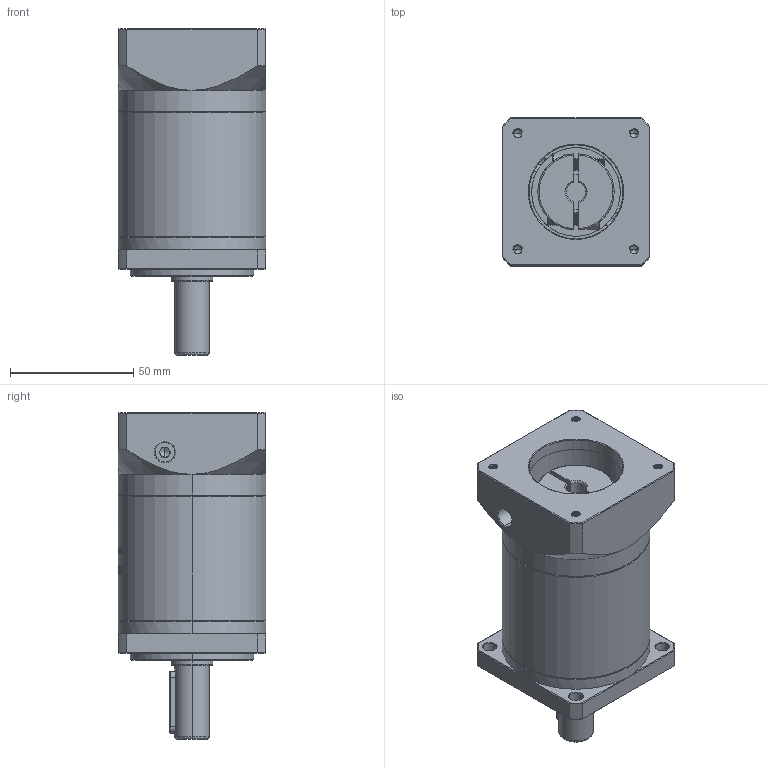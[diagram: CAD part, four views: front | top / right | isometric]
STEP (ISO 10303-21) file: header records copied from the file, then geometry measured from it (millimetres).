
FILE_DESCRIPTION (( 'STEP AP214' ), '1' );
FILE_NAME ('ZF060-D14-L2-P2-8-38.1-47.14X47.14-M4.step', '2023-08-16T04:24:09', ( '' ), ( '' ), 'SwSTEP 2.0', 'SolidWorks 2016', '' );
FILE_SCHEMA (( 'AUTOMOTIVE_DESIGN' ));
Length unit declared in the file: millimetre
Products named in the file (1): ZF060-D14-L2-P2-8-38.1-47.14X47.14-M4
Bounding box: 60 x 60 x 132.5 mm (x, y, z)
Volume: 275822.4 mm3; surface area: 47031 mm2
Topology: 6 solids, 6 shells, 1727 faces, 4679 edges, 3035 vertices
Faces by surface type: plane 794, bspline 354, cylinder 332, cone 227, torus 20
Entity records: 95934 total; most frequent: CARTESIAN_POINT 37618, ORIENTED_EDGE 9330, DIRECTION 6673, EDGE_CURVE 4665, VERTEX_POINT 3035, VECTOR 2365, LINE 2365, AXIS2_PLACEMENT_3D 2154
